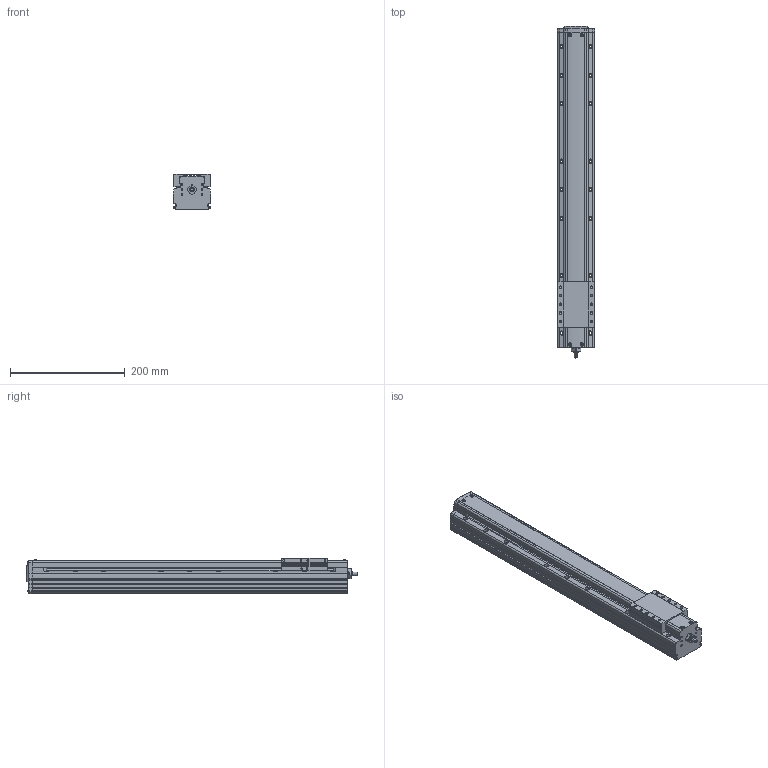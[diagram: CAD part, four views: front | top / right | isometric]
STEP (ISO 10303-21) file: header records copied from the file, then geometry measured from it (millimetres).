
FILE_DESCRIPTION(('STEP AP214'),'1');
FILE_NAME('Z:/Web/3D/PSA65/STP/PSA65-400 (3D)/PSA65ㅁㅁ-400.stp','2014-06-25T04:50:46',(' '),(' '),'Spatial InterOp 3D',' ',' ');
FILE_SCHEMA(('automotive_design'));
Length unit declared in the file: millimetre
Products named in the file (44): SLIDE; RRCV-PA060; 1; 2; 3; 4; 5; 6; 7; 8; 9; 10; 11; 12; 13; 14; 15; 16; 17; 18; 19; 20; 21; 22; 23; 24; 25; 26; 27; 28; 29; 30; 31; 스크루 : Round - M3.0 x 8.0; RN8 x 0.75; SHAFT-SAN65; BASE; 스크루 : Round - M3.0 x 6.0
Bounding box: 65 x 579.3 x 62 mm (x, y, z)
Volume: 1741275.9 mm3; surface area: 232826 mm2
Topology: 44 solids, 44 shells, 1656 faces, 4421 edges, 2816 vertices
Faces by surface type: plane 989, cylinder 455, cone 159, sphere 22, torus 16, bspline 15
Entity records: 65757 total; most frequent: CARTESIAN_POINT 10286, DIRECTION 8716, ORIENTED_EDGE 8614, EDGE_CURVE 4307, LINE 3104, VECTOR 3104, VERTEX_POINT 2816, AXIS2_PLACEMENT_3D 2806
